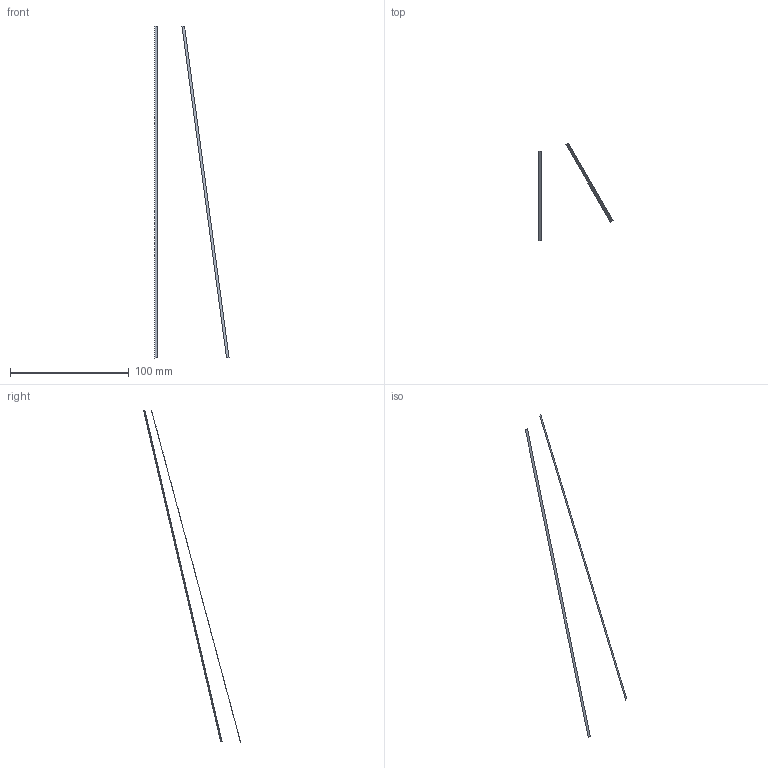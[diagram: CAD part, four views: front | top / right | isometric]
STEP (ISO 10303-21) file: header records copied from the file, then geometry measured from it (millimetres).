
FILE_DESCRIPTION(('CATIA V5 STEP Exchange'),'2;1');
FILE_NAME('C:\Users\diego\Dropbox\Academic\MEng Space Systems\3. MUE - Materiales uso Espacial\Coursework\Modelo FEM\CATIA\.stp\V_Stiffeners.stp','2021-11-24T16:39:43+00:00',('none'),('none'),'CATIA Version 5 Release 21 GA (IN-10)','CATIA V5 STEP AP203','none');
FILE_SCHEMA(('CONFIG_CONTROL_DESIGN'));
Length unit declared in the file: millimetre
Products named in the file (1): Part1
Bounding box: 62.5 x 81.7 x 279.9 mm (x, y, z)
Surface area: 1448.9 mm2 (no closed solid volume)
Topology: 0 solids, 2 shells, 2 faces, 8 edges, 8 vertices
Faces by surface type: bspline 2
Entity records: 268 total; most frequent: CARTESIAN_POINT 177, ORIENTED_EDGE 8, B_SPLINE_CURVE_WITH_KNOTS 8, EDGE_CURVE 8, VERTEX_POINT 8, CC_DESIGN_PERSON_AND_ORGANIZATION_ASSIGNMENT 4, PERSON_AND_ORGANIZATION_ROLE 4, OPEN_SHELL 2
